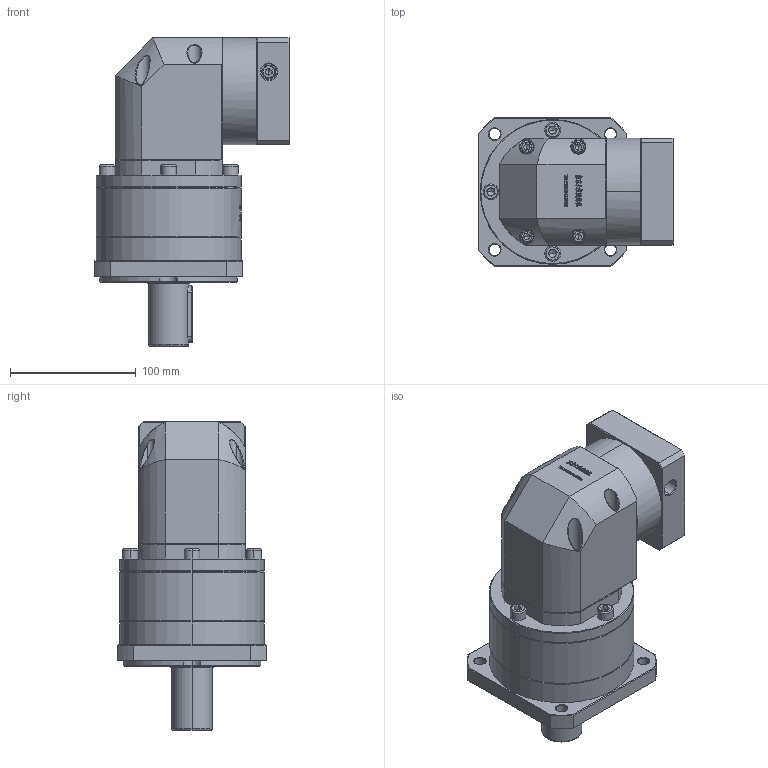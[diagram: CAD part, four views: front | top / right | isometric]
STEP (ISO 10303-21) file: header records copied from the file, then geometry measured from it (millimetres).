
FILE_DESCRIPTION (( 'STEP AP214' ), '1' );
FILE_NAME ('ZFR120A-D32-L2-19-80-100-M6.step', '2023-03-08T05:49:02', ( '' ), ( '' ), 'SwSTEP 2.0', 'SolidWorks 2016', '' );
FILE_SCHEMA (( 'AUTOMOTIVE_DESIGN' ));
Length unit declared in the file: millimetre
Products named in the file (1): ZFR120A-D32-L2-19-80-100-M6
Bounding box: 155.1 x 118 x 245 mm (x, y, z)
Volume: 1873021.3 mm3; surface area: 172277.6 mm2
Topology: 6 solids, 6 shells, 3004 faces, 7965 edges, 5109 vertices
Faces by surface type: plane 1576, bspline 625, cylinder 455, cone 334, torus 14
Entity records: 163912 total; most frequent: CARTESIAN_POINT 62334, ORIENTED_EDGE 15838, DIRECTION 11680, EDGE_CURVE 7919, VERTEX_POINT 5109, LINE 4924, VECTOR 4924, AXIS2_PLACEMENT_3D 3378
